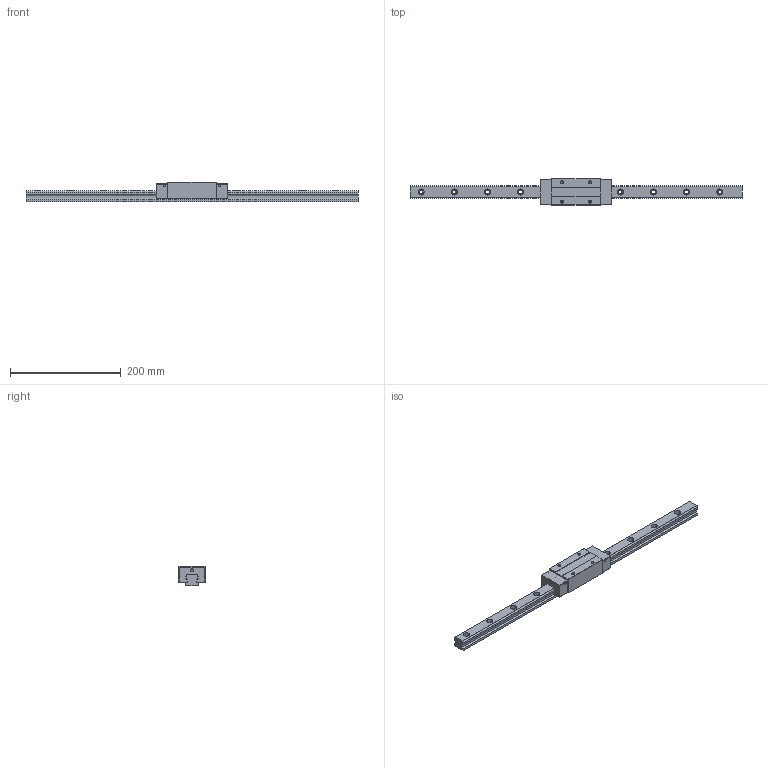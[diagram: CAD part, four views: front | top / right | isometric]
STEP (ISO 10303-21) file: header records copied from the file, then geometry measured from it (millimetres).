
FILE_DESCRIPTION (( 'STEP AP203' ), '1' );
FILE_NAME ('TRC25VE-WZ.STEP', '2024-06-13T01:25:37', ( '' ), ( '' ), 'SwSTEP 2.0', 'SolidWorks 2022', '' );
FILE_SCHEMA (( 'CONFIG_CONTROL_DESIGN' ));
Length unit declared in the file: millimetre
Products named in the file (1): TRC25VE-WZ
Bounding box: 600 x 48 x 36 mm (x, y, z)
Volume: 374110.2 mm3; surface area: 86183.6 mm2
Topology: 2 solids, 2 shells, 200 faces, 520 edges, 336 vertices
Faces by surface type: cylinder 96, plane 88, cone 16
Entity records: 6223 total; most frequent: DIRECTION 1114, CARTESIAN_POINT 1049, ORIENTED_EDGE 1024, EDGE_CURVE 512, AXIS2_PLACEMENT_3D 401, VERTEX_POINT 336, VECTOR 312, LINE 312
